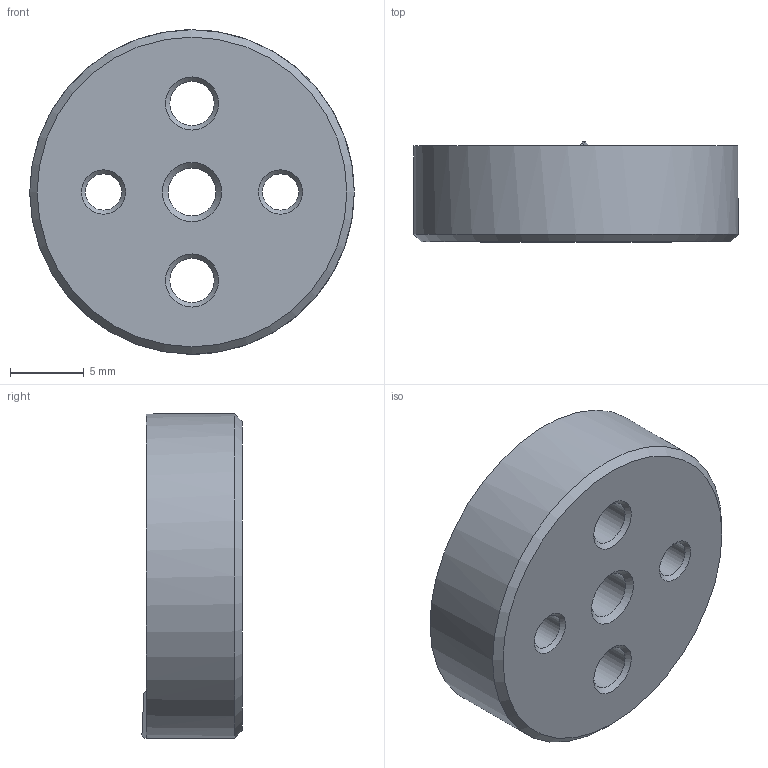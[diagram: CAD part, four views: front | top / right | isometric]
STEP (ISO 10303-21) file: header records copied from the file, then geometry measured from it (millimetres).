
FILE_DESCRIPTION( ( 'STEP AP203' ), '1' );
FILE_NAME( 'C:/Temp/Ganter_Step_05_03_2020/data/3_2/gn187_4/gn187_4_st/Serrated locking plate GN 187.4-22-60-C-ST.stp', '2020-03-13T05:25:41', ( 'License CC BY-ND 4.0' ), ( 'CADENAS' ), ' ', 'PARTsolutions', ' ' );
FILE_SCHEMA( ( 'CONFIG_CONTROL_DESIGN' ) );
Length unit declared in the file: millimetre
Products named in the file (1): _Serrated locking plate GN 187.4-22-60-C-ST
Bounding box: 22 x 6.79 x 22 mm (x, y, z)
Volume: 2093.8 mm3; surface area: 1409.4 mm2
Topology: 1 solids, 1 shells, 30 faces, 74 edges, 46 vertices
Faces by surface type: cone 14, cylinder 9, plane 7
Full cylindrical faces by diameter (mm): 2.459 x2, 3 x2, 3.242 x1, 15.5 x1, 22 x1
Entity records: 924 total; most frequent: CARTESIAN_POINT 229, DIRECTION 142, ORIENTED_EDGE 106, AXIS2_PLACEMENT_3D 68, EDGE_LOOP 58, EDGE_CURVE 53, VERTEX_POINT 43, FACE_OUTER_BOUND 37
